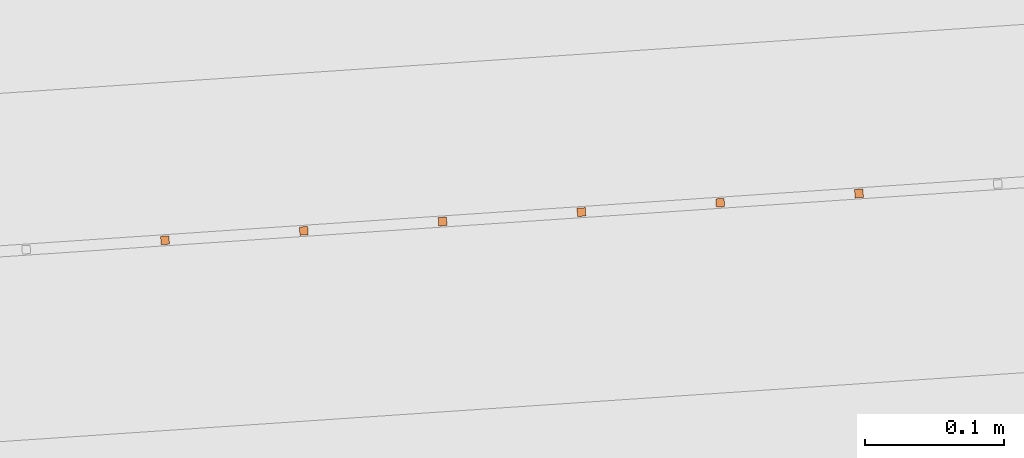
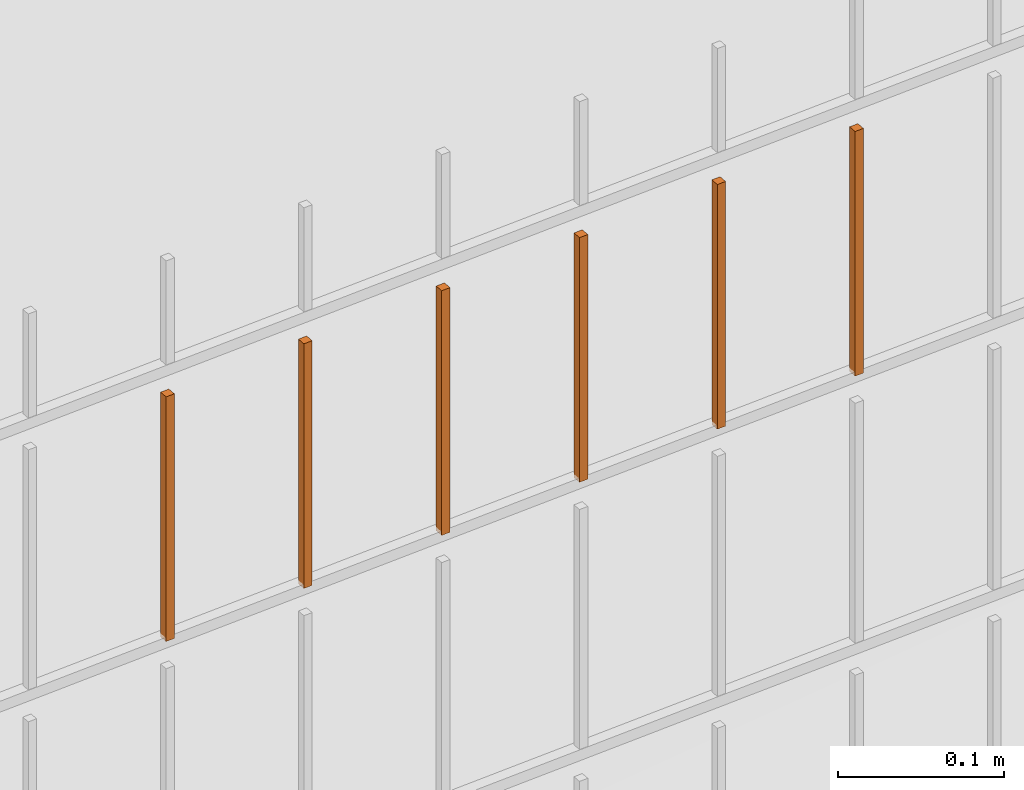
# One storey, part 156 of 1809: 6 proxies, 1 element without a shape of its own.
"""IFC2X3 building model written with IfcOpenShell, lengths in millimetres."""

from ifc_helpers import new_model, entity, si_unit, converted_unit, derived_unit, money_unit, direction, frame, origin_with_axes, place, context, subcontext, project, spatial, faceted_brep, source, transform, mapped, material, type_object, element, aggregate, save


model = new_model("IFC2X3")

# Units and contexts
model_context = context("Model", 3, precision=0.01, world=origin_with_axes(), true_north=direction((0.0, 1.0)))
body_context = subcontext(model_context, "Body", "Model", "MODEL_VIEW")
ifc_project = project(units=[si_unit("LENGTHUNIT", "METRE", prefix="MILLI"), si_unit("AREAUNIT", "SQUARE_METRE"), si_unit("VOLUMEUNIT", "CUBIC_METRE"), converted_unit("PLANEANGLEUNIT", "DEGREE", entity("IfcPlaneAngleMeasure", 0.0174532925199), si_unit("PLANEANGLEUNIT", "RADIAN"), dimensions=[0, 0, 0, 0, 0, 0, 0]), si_unit("SOLIDANGLEUNIT", "STERADIAN"), money_unit("EUR"), converted_unit("TIMEUNIT", "Year", entity("IfcTimeMeasure", 31556926.0), si_unit("TIMEUNIT", "SECOND"), dimensions=[0, 0, 1, 0, 0, 0, 0]), si_unit("MASSUNIT", "GRAM", prefix="KILO"), si_unit("THERMODYNAMICTEMPERATUREUNIT", "DEGREE_CELSIUS"), si_unit("LUMINOUSINTENSITYUNIT", "LUMEN"), si_unit("ENERGYUNIT", "JOULE", prefix="MEGA"), derived_unit("THERMALCONDUCTANCEUNIT", [(si_unit("POWERUNIT", "WATT"), 1), (si_unit("LENGTHUNIT", "METRE"), -1), (si_unit("THERMODYNAMICTEMPERATUREUNIT", "KELVIN"), -1)]), derived_unit("SPECIFICHEATCAPACITYUNIT", [(si_unit("ENERGYUNIT", "JOULE"), 1), (si_unit("MASSUNIT", "GRAM", prefix="KILO"), -1), (si_unit("THERMODYNAMICTEMPERATUREUNIT", "KELVIN"), -1)]), derived_unit("MASSDENSITYUNIT", [(si_unit("MASSUNIT", "GRAM", prefix="KILO"), 1), (si_unit("VOLUMEUNIT", "CUBIC_METRE"), -1)])], contexts=[model_context])

# Site, building, storey
site_placement = place(None, origin_with_axes())
site = spatial("IfcSite", under=ifc_project, at=site_placement, Name="Politse- ja Piirivalveameti ning Päästeameti ühishoone", CompositionType="ELEMENT")
building_placement = place(site_placement, origin_with_axes())
building = spatial("IfcBuilding", under=site, at=building_placement, Name="Politse- ja Piirivalveameti ning Päästeameti ühishoone", CompositionType="ELEMENT")
storey_placement = place(building_placement, origin_with_axes())
storey = spatial("IfcBuildingStorey", under=building, at=storey_placement, Name="Esimene korrus", CompositionType="ELEMENT", Elevation=0.0)

# Proxies
building_element_proxy_type_1 = type_object("IfcBuildingElementProxyType", Name="Railing Type", PredefinedType="NOTDEFINED")
proxy_1_placement = place(storey_placement, frame((89252.001212, -29183.4766571, 203.661247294), z_axis=(0.0, 0.0, 1.0), x_axis=(1.0, 0.0, 0.0)))
proxy_1 = element("IfcBuildingElementProxy", 1, at=proxy_1_placement, inside=storey, type_object=building_element_proxy_type_1, Name="PIIRDEAED")
ifc_material = material(Name="ET-03_Raud")
building_element_proxy_type_2 = type_object("IfcBuildingElementProxyType", Name="IfcBuildingElementProxy", PredefinedType="NOTDEFINED")
shared_shape_1 = source(origin_with_axes(), body_context, "Body", "Brep", [
    faceted_brep([(3.0, 3.0, -0.000752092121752), (-3.0, 3.0, -0.000752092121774), (-3.0, 3.0, 179.99926046), (3.0, 3.0, 179.99926046), (3.0, -3.0, 0.000752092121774), (-3.0, -3.0, 0.000752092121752), (-3.0, -3.0, 180.000764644), (3.0, -3.0, 180.000764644)], [[[0, 1, 2, 3]], [[0, 4, 5, 1]], [[1, 5, 6, 2]], [[3, 2, 6, 7]], [[4, 0, 3, 7]], [[5, 4, 7, 6]]]),
])
proxy_2_placement = place(proxy_1_placement, frame((-81939.9754273, -22832.5108714, 1806.64544051), z_axis=(0.0, 0.0, 1.0), x_axis=(1.0, 0.0, 0.0)))
proxy_2 = element("IfcBuildingElementProxy", 2, at=proxy_2_placement, type_object=building_element_proxy_type_2, material=ifc_material, Name="BALUSTER - 001", context=body_context, shape_type="MappedRepresentation", body=[
    mapped(shared_shape_1, transform((0.0, 0.0, 0.0), x_axis=(-0.0673926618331, 0.997726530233, 0.0), y_axis=(-0.997726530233, -0.0673926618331, 0.0), z_axis=(0.0, 0.0, 1.0))),
])
shared_shape_2 = source(origin_with_axes(), body_context, "Body", "Brep", [
    faceted_brep([(3.0, 3.0, -0.000752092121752), (-3.0, 3.0, -0.000752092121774), (-3.0, 3.0, 179.99926046), (3.0, 3.0, 179.99926046), (3.0, -3.0, 0.000752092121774), (-3.0, -3.0, 0.000752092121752), (-3.0, -3.0, 180.000764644), (3.0, -3.0, 180.000764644)], [[[0, 1, 2, 3]], [[0, 4, 5, 1]], [[1, 5, 6, 2]], [[3, 2, 6, 7]], [[4, 0, 3, 7]], [[5, 4, 7, 6]]]),
])
proxy_3_placement = place(proxy_1_placement, frame((-81840.2027743, -22825.7716052, 1806.67051024), z_axis=(0.0, 0.0, 1.0), x_axis=(1.0, 0.0, 0.0)))
proxy_3 = element("IfcBuildingElementProxy", 3, at=proxy_3_placement, type_object=building_element_proxy_type_2, material=ifc_material, Name="BALUSTER - 001", context=body_context, shape_type="MappedRepresentation", body=[
    mapped(shared_shape_2, transform((0.0, 0.0, 0.0), x_axis=(-0.0673926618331, 0.997726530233, 0.0), y_axis=(-0.997726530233, -0.0673926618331, 0.0), z_axis=(0.0, 0.0, 1.0))),
])
shared_shape_3 = source(origin_with_axes(), body_context, "Body", "Brep", [
    faceted_brep([(3.0, 3.0, -0.000752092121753), (-3.0, 3.0, -0.000752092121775), (-3.0, 3.0, 179.99926046), (3.0, 3.0, 179.99926046), (3.0, -3.0, 0.000752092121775), (-3.0, -3.0, 0.000752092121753), (-3.0, -3.0, 180.000764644), (3.0, -3.0, 180.000764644)], [[[0, 1, 2, 3]], [[0, 4, 5, 1]], [[1, 5, 6, 2]], [[3, 2, 6, 7]], [[4, 0, 3, 7]], [[5, 4, 7, 6]]]),
])
proxy_4_placement = place(proxy_1_placement, frame((-81441.1121622, -22798.8145405, 1806.77078919), z_axis=(0.0, 0.0, 1.0), x_axis=(1.0, 0.0, 0.0)))
proxy_4 = element("IfcBuildingElementProxy", 4, at=proxy_4_placement, type_object=building_element_proxy_type_2, material=ifc_material, Name="BALUSTER - 001", context=body_context, shape_type="MappedRepresentation", body=[
    mapped(shared_shape_3, transform((0.0, 0.0, 0.0), x_axis=(-0.0673926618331, 0.997726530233, 0.0), y_axis=(-0.997726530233, -0.0673926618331, 0.0), z_axis=(0.0, 0.0, 1.0))),
])
shared_shape_4 = source(origin_with_axes(), body_context, "Body", "Brep", [
    faceted_brep([(3.0, 3.0, -0.000752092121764), (-3.0, 3.0, -0.000752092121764), (-3.0, 3.0, 179.99926046), (3.0, 3.0, 179.99926046), (3.0, -3.0, 0.000752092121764), (-3.0, -3.0, 0.000752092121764), (-3.0, -3.0, 180.000764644), (3.0, -3.0, 180.000764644)], [[[0, 1, 2, 3]], [[0, 4, 5, 1]], [[1, 5, 6, 2]], [[3, 2, 6, 7]], [[4, 0, 3, 7]], [[5, 4, 7, 6]]]),
])
proxy_5_placement = place(proxy_1_placement, frame((-81540.8848152, -22805.5538067, 1806.74571946), z_axis=(0.0, 0.0, 1.0), x_axis=(1.0, 0.0, 0.0)))
proxy_5 = element("IfcBuildingElementProxy", 5, at=proxy_5_placement, type_object=building_element_proxy_type_2, material=ifc_material, Name="BALUSTER - 001", context=body_context, shape_type="MappedRepresentation", body=[
    mapped(shared_shape_4, transform((0.0, 0.0, 0.0), x_axis=(-0.0673926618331, 0.997726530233, 0.0), y_axis=(-0.997726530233, -0.0673926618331, 0.0), z_axis=(0.0, 0.0, 1.0))),
])
shared_shape_5 = source(origin_with_axes(), body_context, "Body", "Brep", [
    faceted_brep([(3.0, 3.0, -0.000752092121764), (-3.0, 3.0, -0.000752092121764), (-3.0, 3.0, 179.99926046), (3.0, 3.0, 179.99926046), (3.0, -3.0, 0.000752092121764), (-3.0, -3.0, 0.000752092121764), (-3.0, -3.0, 180.000764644), (3.0, -3.0, 180.000764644)], [[[0, 1, 2, 3]], [[0, 4, 5, 1]], [[1, 5, 6, 2]], [[3, 2, 6, 7]], [[4, 0, 3, 7]], [[5, 4, 7, 6]]]),
])
proxy_6_placement = place(proxy_1_placement, frame((-81640.6574683, -22812.2930729, 1806.72064972), z_axis=(0.0, 0.0, 1.0), x_axis=(1.0, 0.0, 0.0)))
proxy_6 = element("IfcBuildingElementProxy", 6, at=proxy_6_placement, type_object=building_element_proxy_type_2, material=ifc_material, Name="BALUSTER - 001", context=body_context, shape_type="MappedRepresentation", body=[
    mapped(shared_shape_5, transform((0.0, 0.0, 0.0), x_axis=(-0.0673926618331, 0.997726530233, 0.0), y_axis=(-0.997726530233, -0.0673926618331, 0.0), z_axis=(0.0, 0.0, 1.0))),
])
shared_shape_6 = source(origin_with_axes(), body_context, "Body", "Brep", [
    faceted_brep([(3.0, 3.0, -0.000752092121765), (-3.0, 3.0, -0.000752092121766), (-3.0, 3.0, 179.99926046), (3.0, 3.0, 179.99926046), (3.0, -3.0, 0.000752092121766), (-3.0, -3.0, 0.000752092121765), (-3.0, -3.0, 180.000764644), (3.0, -3.0, 180.000764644)], [[[0, 1, 2, 3]], [[0, 4, 5, 1]], [[1, 5, 6, 2]], [[3, 2, 6, 7]], [[4, 0, 3, 7]], [[5, 4, 7, 6]]]),
])
proxy_7_placement = place(proxy_1_placement, frame((-81740.4301213, -22819.032339, 1806.69557998), z_axis=(0.0, 0.0, 1.0), x_axis=(1.0, 0.0, 0.0)))
proxy_7 = element("IfcBuildingElementProxy", 7, at=proxy_7_placement, type_object=building_element_proxy_type_2, material=ifc_material, Name="BALUSTER - 001", context=body_context, shape_type="MappedRepresentation", body=[
    mapped(shared_shape_6, transform((0.0, 0.0, 0.0), x_axis=(-0.0673926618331, 0.997726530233, 0.0), y_axis=(-0.997726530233, -0.0673926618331, 0.0), z_axis=(0.0, 0.0, 1.0))),
])
aggregate(proxy_1, [proxy_4, proxy_5, proxy_6, proxy_7, proxy_3, proxy_2])

save(model, "model.ifc")
